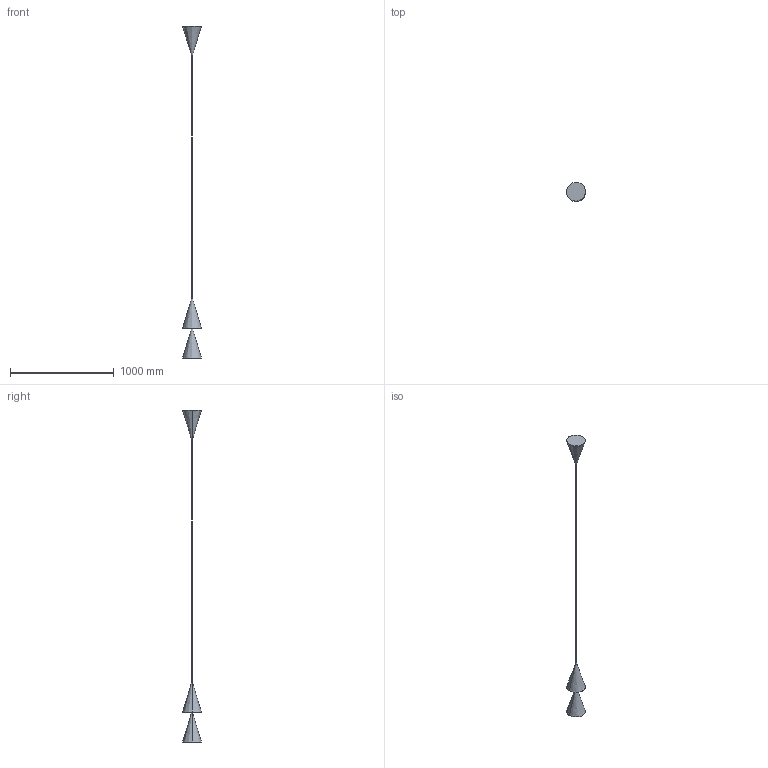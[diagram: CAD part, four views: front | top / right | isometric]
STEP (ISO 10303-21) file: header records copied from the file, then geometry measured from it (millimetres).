
FILE_DESCRIPTION(/* description */ (''),/* implementation_level */ '2;1');
FILE_NAME(/* name */ 'PEAKS-2-down',/* time_stamp */ '2023-08-21T16:56:55+01:00',/* author */ (''),/* organization */ (''),/* preprocessor_version */ 'ST-DEVELOPER v16.5',/* originating_system */ 'Rhino 7.32',/* authorisation */ '');
FILE_SCHEMA (('CONFIG_CONTROL_DESIGN'));
Length unit declared in the file: millimetre
Products named in the file (1): Document
Bounding box: 180 x 179.77 x 3200 mm (x, y, z)
Volume: 7576881.2 mm3; surface area: 374294.2 mm2
Topology: 1 solids, 1 shells, 13 faces, 24 edges, 16 vertices
Faces by surface type: bspline 6, plane 5, cylinder 2
Entity records: 448 total; most frequent: CARTESIAN_POINT 199, ORIENTED_EDGE 48, EDGE_CURVE 24, EDGE_LOOP 16, VERTEX_POINT 16, ADVANCED_FACE 13, FACE_OUTER_BOUND 13, DIRECTION 11
